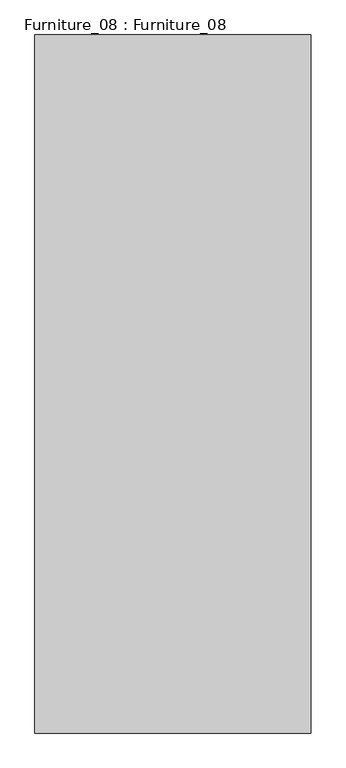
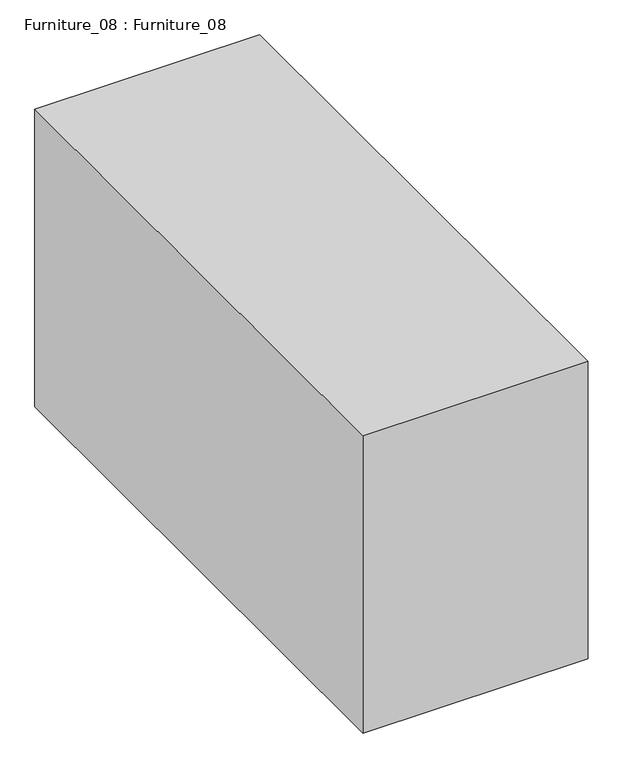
"""IFC4 building model written with IfcOpenShell, lengths in millimetres: furniture geometry, Furniture_08 : Furniture_08."""

from ifc_helpers import new_model, si_unit, frame, origin, place, context, project, spatial, polyline, outline, extrude, source, transform, mapped, element, save


def furniture_08_furniture_08_d57b497b(model_context):
    return source(origin(), model_context, "Body", "SweptSolid", [
        extrude(outline(polyline([(-812.6989418, 7439.5377951), (-812.6989418, 5999.5377951), (-1382.6989418, 5999.5377951), (-1382.6989418, 7439.5377951), (-812.6989418, 7439.5377951)])), frame((0.0, 0.0, 3400.0), z_axis=(0.0, 0.0, 1.0), x_axis=(1.0, 0.0, 0.0)), (0.0, 0.0, 1.0), 796.4591758),
    ])


if __name__ == "__main__":
    model = new_model("IFC4")
    model_context = context("Model", 3, world=origin())
    ifc_project = project(units=[si_unit("LENGTHUNIT", "METRE", prefix="MILLI")], contexts=[model_context])
    site = spatial("IfcSite", under=ifc_project)
    building = spatial("IfcBuilding", under=site)
    placement = place(None, origin())
    furniture_08_furniture_08_shape = furniture_08_furniture_08_d57b497b(model_context)
    element("IfcFurniture", 1, ObjectType="Furniture_08 : Furniture_08", at=placement, inside=building, context=model_context, shape_type="MappedRepresentation", body=[
        mapped(furniture_08_furniture_08_shape, transform((0.0, 0.0, 0.0), x_axis=(1.0, 0.0, 0.0), y_axis=(0.0, 1.0, 0.0), z_axis=(0.0, 0.0, 1.0))),
    ])
    save(model, "model.ifc")
